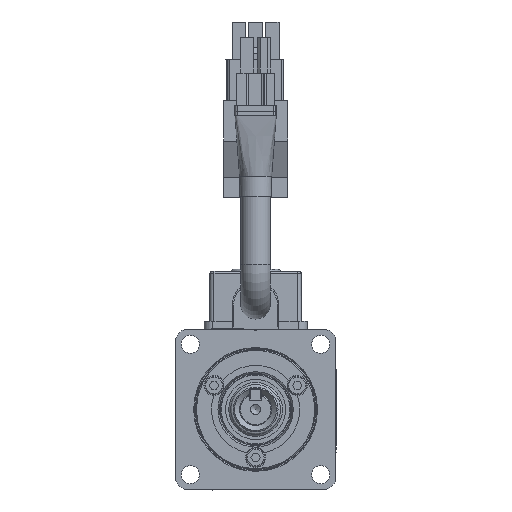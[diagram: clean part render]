
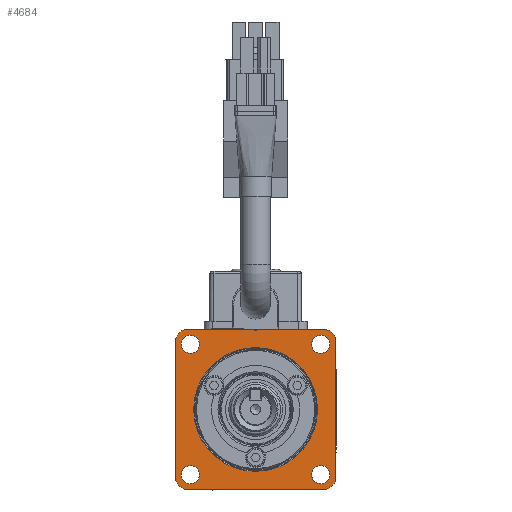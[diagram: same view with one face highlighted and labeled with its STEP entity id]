
A CAD part, left-side view. The second image highlights one B-rep face of the part: STEP entity #4684.
In plain terms, the highlighted planar face has unit normal (-1, 0, 0) as drawn and (0, -1, 0) by its records, which use the part's own axes.
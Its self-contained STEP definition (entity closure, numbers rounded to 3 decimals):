
#4684 = ADVANCED_FACE( '', ( #9731, #9732, #9733, #9734, #9735, #9736 ), #9737, .T. );
#9731 = FACE_BOUND( '', #17973, .T. );
#9732 = FACE_OUTER_BOUND( '', #17974, .T. );
#9733 = FACE_BOUND( '', #17975, .T. );
#9734 = FACE_BOUND( '', #17976, .T. );
#9735 = FACE_BOUND( '', #17977, .T. );
#9736 = FACE_BOUND( '', #17978, .T. );
#9737 = PLANE( '', #17979 );
#17973 = EDGE_LOOP( '', ( #31479 ) );
#17974 = EDGE_LOOP( '', ( #31480, #31481, #31482, #31483, #31484, #31485, #31486, #31487 ) );
#17975 = EDGE_LOOP( '', ( #31488 ) );
#17976 = EDGE_LOOP( '', ( #31489 ) );
#17977 = EDGE_LOOP( '', ( #31490 ) );
#17978 = EDGE_LOOP( '', ( #31491 ) );
#17979 = AXIS2_PLACEMENT_3D( '', #31492, #31493, #31494 );
#31479 = ORIENTED_EDGE( '', *, *, #42355, .T. );
#31480 = ORIENTED_EDGE( '', *, *, #42356, .F. );
#31481 = ORIENTED_EDGE( '', *, *, #41644, .T. );
#31482 = ORIENTED_EDGE( '', *, *, #41291, .F. );
#31483 = ORIENTED_EDGE( '', *, *, #42357, .T. );
#31484 = ORIENTED_EDGE( '', *, *, #37999, .F. );
#31485 = ORIENTED_EDGE( '', *, *, #42162, .F. );
#31486 = ORIENTED_EDGE( '', *, *, #38218, .F. );
#31487 = ORIENTED_EDGE( '', *, *, #37896, .T. );
#31488 = ORIENTED_EDGE( '', *, *, #42358, .F. );
#31489 = ORIENTED_EDGE( '', *, *, #42231, .F. );
#31490 = ORIENTED_EDGE( '', *, *, #41042, .F. );
#31491 = ORIENTED_EDGE( '', *, *, #41675, .F. );
#31492 = CARTESIAN_POINT( '', ( 0., 0.5, 15.5 ) );
#31493 = DIRECTION( '', ( 0., -1., 0. ) );
#31494 = DIRECTION( '', ( 0., 0., -1. ) );
#37896 = EDGE_CURVE( '', #44621, #44619, #44622, .T. );
#37999 = EDGE_CURVE( '', #44809, #44812, #44813, .F. );
#38218 = EDGE_CURVE( '', #44621, #45204, #45205, .F. );
#41042 = EDGE_CURVE( '', #49850, #49850, #49851, .F. );
#41291 = EDGE_CURVE( '', #50204, #50207, #50208, .F. );
#41644 = EDGE_CURVE( '', #50701, #50207, #50702, .T. );
#41675 = EDGE_CURVE( '', #50744, #50744, #50745, .F. );
#42162 = EDGE_CURVE( '', #45204, #44809, #51401, .T. );
#42231 = EDGE_CURVE( '', #51489, #51489, #51490, .F. );
#42355 = EDGE_CURVE( '', #51635, #51635, #51636, .F. );
#42356 = EDGE_CURVE( '', #50701, #44619, #51637, .F. );
#42357 = EDGE_CURVE( '', #50204, #44812, #51638, .T. );
#42358 = EDGE_CURVE( '', #51639, #51639, #51640, .F. );
#44619 = VERTEX_POINT( '', #53419 );
#44621 = VERTEX_POINT( '', #53422 );
#44622 = LINE( '', #53423, #53424 );
#44809 = VERTEX_POINT( '', #53737 );
#44812 = VERTEX_POINT( '', #53741 );
#44813 = CIRCLE( '', #53742, 3. );
#45204 = VERTEX_POINT( '', #54348 );
#45205 = CIRCLE( '', #54349, 3. );
#49850 = VERTEX_POINT( '', #62571 );
#49851 = CIRCLE( '', #62572, 2.25 );
#50204 = VERTEX_POINT( '', #63073 );
#50207 = VERTEX_POINT( '', #63077 );
#50208 = CIRCLE( '', #63078, 3. );
#50701 = VERTEX_POINT( '', #63877 );
#50702 = LINE( '', #63878, #63879 );
#50744 = VERTEX_POINT( '', #63937 );
#50745 = CIRCLE( '', #63938, 2.25 );
#51401 = LINE( '', #65014, #65015 );
#51489 = VERTEX_POINT( '', #65141 );
#51490 = CIRCLE( '', #65142, 2.25 );
#51635 = VERTEX_POINT( '', #65363 );
#51636 = CIRCLE( '', #65364, 15.45 );
#51637 = CIRCLE( '', #65365, 3. );
#51638 = LINE( '', #65366, #65367 );
#51639 = VERTEX_POINT( '', #65368 );
#51640 = CIRCLE( '', #65369, 2.25 );
#53419 = CARTESIAN_POINT( '', ( 20., 0.5, 17. ) );
#53422 = CARTESIAN_POINT( '', ( 20., 0.5, -17. ) );
#53423 = CARTESIAN_POINT( '', ( 20., 0.5, -20. ) );
#53424 = VECTOR( '', #68547, 1000. );
#53737 = CARTESIAN_POINT( '', ( -17., 0.5, -20. ) );
#53741 = CARTESIAN_POINT( '', ( -20., 0.5, -17. ) );
#53742 = AXIS2_PLACEMENT_3D( '', #68700, #68701, #68702 );
#54348 = CARTESIAN_POINT( '', ( 17., 0.5, -20. ) );
#54349 = AXIS2_PLACEMENT_3D( '', #68937, #68938, #68939 );
#62571 = CARTESIAN_POINT( '', ( -16.263, 0.5, -14.013 ) );
#62572 = AXIS2_PLACEMENT_3D( '', #72033, #72034, #72035 );
#63073 = CARTESIAN_POINT( '', ( -20., 0.5, 17. ) );
#63077 = CARTESIAN_POINT( '', ( -17., 0.5, 20. ) );
#63078 = AXIS2_PLACEMENT_3D( '', #72324, #72325, #72326 );
#63877 = CARTESIAN_POINT( '', ( 17., 0.5, 20. ) );
#63878 = CARTESIAN_POINT( '', ( 20., 0.5, 20. ) );
#63879 = VECTOR( '', #72719, 1000. );
#63937 = CARTESIAN_POINT( '', ( -16.263, 0.5, 18.513 ) );
#63938 = AXIS2_PLACEMENT_3D( '', #72755, #72756, #72757 );
#65014 = CARTESIAN_POINT( '', ( -20., 0.5, -20. ) );
#65015 = VECTOR( '', #73233, 1000. );
#65141 = CARTESIAN_POINT( '', ( 16.263, 0.5, -14.013 ) );
#65142 = AXIS2_PLACEMENT_3D( '', #73302, #73303, #73304 );
#65363 = CARTESIAN_POINT( '', ( 0., 0.5, -15.45 ) );
#65364 = AXIS2_PLACEMENT_3D( '', #73407, #73408, #73409 );
#65365 = AXIS2_PLACEMENT_3D( '', #73410, #73411, #73412 );
#65366 = CARTESIAN_POINT( '', ( -20., 0.5, 20. ) );
#65367 = VECTOR( '', #73413, 1000. );
#65368 = CARTESIAN_POINT( '', ( 16.263, 0.5, 18.513 ) );
#65369 = AXIS2_PLACEMENT_3D( '', #73414, #73415, #73416 );
#68547 = DIRECTION( '', ( 0., 0., 1. ) );
#68700 = CARTESIAN_POINT( '', ( -17., 0.5, -17. ) );
#68701 = DIRECTION( '', ( 0., -1., 0. ) );
#68702 = DIRECTION( '', ( 0., 0., -1. ) );
#68937 = CARTESIAN_POINT( '', ( 17., 0.5, -17. ) );
#68938 = DIRECTION( '', ( 0., -1., 0. ) );
#68939 = DIRECTION( '', ( 0., 0., -1. ) );
#72033 = CARTESIAN_POINT( '', ( -16.263, 0.5, -16.263 ) );
#72034 = DIRECTION( '', ( 0., 1., 0. ) );
#72035 = DIRECTION( '', ( 0., 0., 1. ) );
#72324 = CARTESIAN_POINT( '', ( -17., 0.5, 17. ) );
#72325 = DIRECTION( '', ( 0., -1., 0. ) );
#72326 = DIRECTION( '', ( 0., 0., -1. ) );
#72719 = DIRECTION( '', ( -1., 0., 0. ) );
#72755 = CARTESIAN_POINT( '', ( -16.263, 0.5, 16.263 ) );
#72756 = DIRECTION( '', ( 0., 1., 0. ) );
#72757 = DIRECTION( '', ( 0., 0., 1. ) );
#73233 = DIRECTION( '', ( -1., 0., 0. ) );
#73302 = CARTESIAN_POINT( '', ( 16.263, 0.5, -16.263 ) );
#73303 = DIRECTION( '', ( 0., 1., 0. ) );
#73304 = DIRECTION( '', ( 0., 0., 1. ) );
#73407 = CARTESIAN_POINT( '', ( 0., 0.5, 0. ) );
#73408 = DIRECTION( '', ( 0., -1., 0. ) );
#73409 = DIRECTION( '', ( 0., 0., -1. ) );
#73410 = CARTESIAN_POINT( '', ( 17., 0.5, 17. ) );
#73411 = DIRECTION( '', ( 0., -1., 0. ) );
#73412 = DIRECTION( '', ( 0., 0., -1. ) );
#73413 = DIRECTION( '', ( 0., 0., -1. ) );
#73414 = CARTESIAN_POINT( '', ( 16.263, 0.5, 16.263 ) );
#73415 = DIRECTION( '', ( 0., 1., 0. ) );
#73416 = DIRECTION( '', ( 0., 0., 1. ) );
